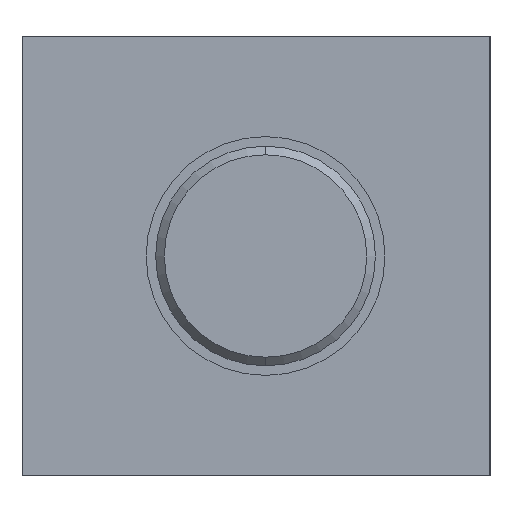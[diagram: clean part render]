
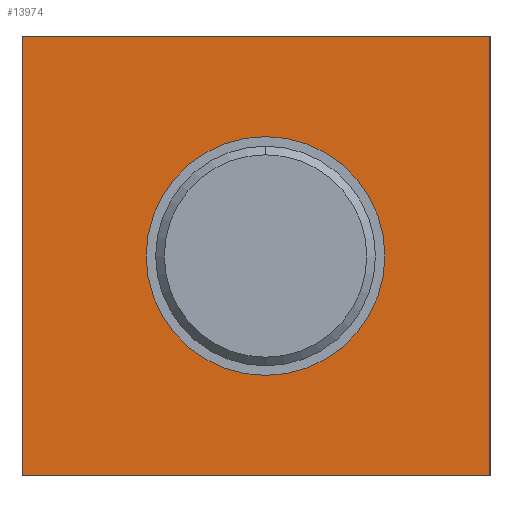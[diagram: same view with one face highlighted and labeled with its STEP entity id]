
A CAD part, left-side view. The second image highlights one B-rep face of the part: STEP entity #13974.
In plain terms, the highlighted planar face has unit normal (-1, 0, 0).
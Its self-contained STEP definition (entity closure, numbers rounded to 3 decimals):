
#237 = DIRECTION ( 'NONE',  ( -1., 0., 0. ) ) ;
#540 = CARTESIAN_POINT ( 'NONE',  ( 0., 11.5, 0. ) ) ;
#770 = VECTOR ( 'NONE', #8951, 1000. ) ;
#837 = ORIENTED_EDGE ( 'NONE', *, *, #16499, .F. ) ;
#1355 = FACE_OUTER_BOUND ( 'NONE', #5261, .T. ) ;
#1374 = LINE ( 'NONE', #15654, #5835 ) ;
#1639 = CARTESIAN_POINT ( 'NONE',  ( 0., -1., 0. ) ) ;
#2246 = DIRECTION ( 'NONE',  ( 0., 0., -1. ) ) ;
#2350 = CARTESIAN_POINT ( 'NONE',  ( 0., -24.5, -23. ) ) ;
#2688 = ORIENTED_EDGE ( 'NONE', *, *, #6238, .F. ) ;
#3536 = DIRECTION ( 'NONE',  ( 0., -1., 0. ) ) ;
#5261 = EDGE_LOOP ( 'NONE', ( #837, #20870, #6517, #20681 ) ) ;
#5321 = CARTESIAN_POINT ( 'NONE',  ( 0., 24.5, 23. ) ) ;
#5374 = VERTEX_POINT ( 'NONE', #8739 ) ;
#5600 = AXIS2_PLACEMENT_3D ( 'NONE', #11573, #237, #13432 ) ;
#5725 = CIRCLE ( 'NONE', #10139, 12.5 ) ;
#5835 = VECTOR ( 'NONE', #8885, 1000. ) ;
#6185 = ORIENTED_EDGE ( 'NONE', *, *, #22720, .F. ) ;
#6238 = EDGE_CURVE ( 'NONE', #8949, #5374, #5725, .T. ) ;
#6517 = ORIENTED_EDGE ( 'NONE', *, *, #20710, .F. ) ;
#6827 = DIRECTION ( 'NONE',  ( -1., 0., 0. ) ) ;
#7958 = VERTEX_POINT ( 'NONE', #2350 ) ;
#8739 = CARTESIAN_POINT ( 'NONE',  ( 0., -13.5, 0. ) ) ;
#8885 = DIRECTION ( 'NONE',  ( 0., 1., 0. ) ) ;
#8949 = VERTEX_POINT ( 'NONE', #540 ) ;
#8951 = DIRECTION ( 'NONE',  ( 0., -1., 0. ) ) ;
#9343 = CARTESIAN_POINT ( 'NONE',  ( 0., 24.5, 23. ) ) ;
#9691 = EDGE_LOOP ( 'NONE', ( #6185, #2688 ) ) ;
#10139 = AXIS2_PLACEMENT_3D ( 'NONE', #1639, #14719, #3536 ) ;
#10840 = LINE ( 'NONE', #19882, #770 ) ;
#11571 = CARTESIAN_POINT ( 'NONE',  ( 0., -24.5, 23. ) ) ;
#11573 = CARTESIAN_POINT ( 'NONE',  ( 0., -1., 0. ) ) ;
#11635 = LINE ( 'NONE', #9343, #16563 ) ;
#11680 = CARTESIAN_POINT ( 'NONE',  ( 0., 24.5, -23. ) ) ;
#11688 = VERTEX_POINT ( 'NONE', #5321 ) ;
#12261 = VERTEX_POINT ( 'NONE', #11680 ) ;
#13140 = DIRECTION ( 'NONE',  ( 0., 0., 1. ) ) ;
#13432 = DIRECTION ( 'NONE',  ( 0., -1., 0. ) ) ;
#13974 = ADVANCED_FACE ( 'NONE', ( #1355, #20495 ), #23257, .T. ) ;
#14606 = VECTOR ( 'NONE', #2246, 1000. ) ;
#14719 = DIRECTION ( 'NONE',  ( -1., 0., 0. ) ) ;
#15641 = EDGE_CURVE ( 'NONE', #18360, #7958, #20001, .T. ) ;
#15654 = CARTESIAN_POINT ( 'NONE',  ( 0., -24.5, -23. ) ) ;
#16141 = CARTESIAN_POINT ( 'NONE',  ( 0., -24.5, 23. ) ) ;
#16499 = EDGE_CURVE ( 'NONE', #7958, #12261, #1374, .T. ) ;
#16563 = VECTOR ( 'NONE', #13140, 1000. ) ;
#16585 = AXIS2_PLACEMENT_3D ( 'NONE', #17871, #6827, #19641 ) ;
#16597 = EDGE_CURVE ( 'NONE', #12261, #11688, #11635, .T. ) ;
#17056 = CIRCLE ( 'NONE', #5600, 12.5 ) ;
#17871 = CARTESIAN_POINT ( 'NONE',  ( 0., 0., 0. ) ) ;
#18360 = VERTEX_POINT ( 'NONE', #16141 ) ;
#19641 = DIRECTION ( 'NONE',  ( 0., 0., 1. ) ) ;
#19882 = CARTESIAN_POINT ( 'NONE',  ( 0., -24.5, 23. ) ) ;
#20001 = LINE ( 'NONE', #11571, #14606 ) ;
#20495 = FACE_BOUND ( 'NONE', #9691, .T. ) ;
#20681 = ORIENTED_EDGE ( 'NONE', *, *, #16597, .F. ) ;
#20710 = EDGE_CURVE ( 'NONE', #11688, #18360, #10840, .T. ) ;
#20870 = ORIENTED_EDGE ( 'NONE', *, *, #15641, .F. ) ;
#22720 = EDGE_CURVE ( 'NONE', #5374, #8949, #17056, .T. ) ;
#23257 = PLANE ( 'NONE',  #16585 ) ;
